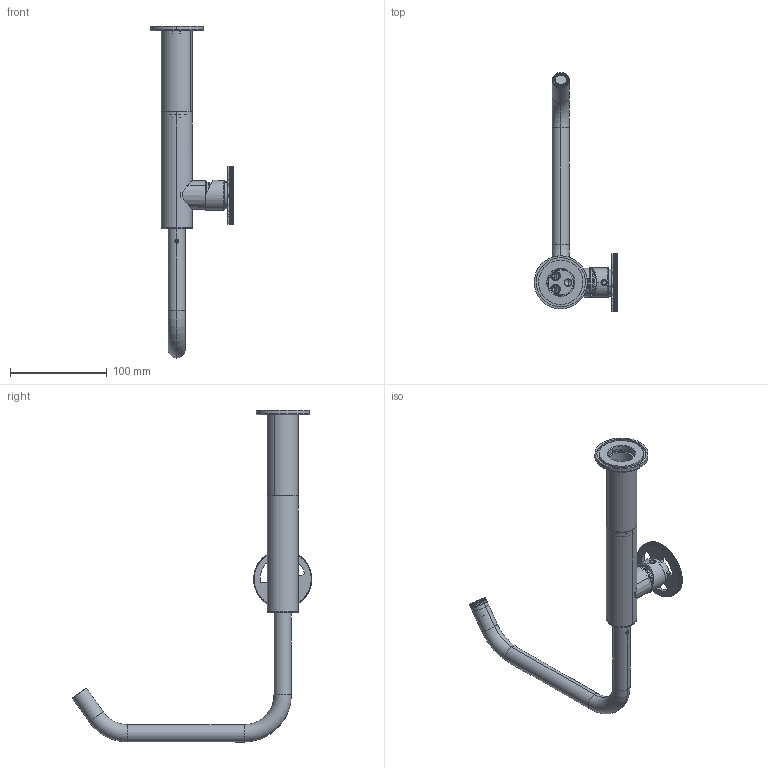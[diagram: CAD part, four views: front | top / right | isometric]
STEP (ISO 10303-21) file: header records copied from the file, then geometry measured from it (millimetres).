
FILE_DESCRIPTION (( 'STEP AP203' ), '1' );
FILE_NAME ('TIB3M.STEP', '2018-06-01T07:17:53', ( '' ), ( '' ), 'SwSTEP 2.0', 'SolidWorks 2014', '' );
FILE_SCHEMA (( 'CONFIG_CONTROL_DESIGN' ));
Length unit declared in the file: millimetre
Products named in the file (22): AERA161INC; EU0371_2; EU1475_0; EU1469_1; OR212ACS; EU0119_2; TAPPHITO01; EU1476_0; AS538_00; EU0648_1; EU0029_1; AS543_01; TIB3M; EU0370_3; OR992262ACS; EU0120_1; GRANO M5x6; EU1464_1; EU0649_0; GRANO M4x3; CARTBAG016; EU0824_ZA
Assembly tree (23 placements, depth 4):
  TIB3M
    GRANO M4x3
    EU1469_1
    AS538_00
      EU0370_3
      EU0371_2
      CARTBAG016
      EU0120_1
      EU0119_2
      TAPPHITO01
      GRANO M5x6
      EU0029_1
      OR212ACS
      OR992262ACS  x2
      EU0649_0  x2
      EU0648_1
      AS543_01
        EU1464_1
        EU1476_0
    EU1475_0
    EU0824_ZA
    AERA161INC
Bounding box: 86.51 x 247.9 x 343.97 mm (x, y, z)
Volume: 135495.6 mm3; surface area: 121339.1 mm2
Topology: 20 solids, 30 shells, 1726 faces, 4870 edges, 3187 vertices
Faces by surface type: plane 740, cylinder 640, cone 200, bspline 86, torus 60
Entity records: 62249 total; most frequent: CARTESIAN_POINT 16708, ORIENTED_EDGE 9068, DIRECTION 8853, EDGE_CURVE 4764, AXIS2_PLACEMENT_3D 3153, VERTEX_POINT 3139, VECTOR 2547, LINE 2547
